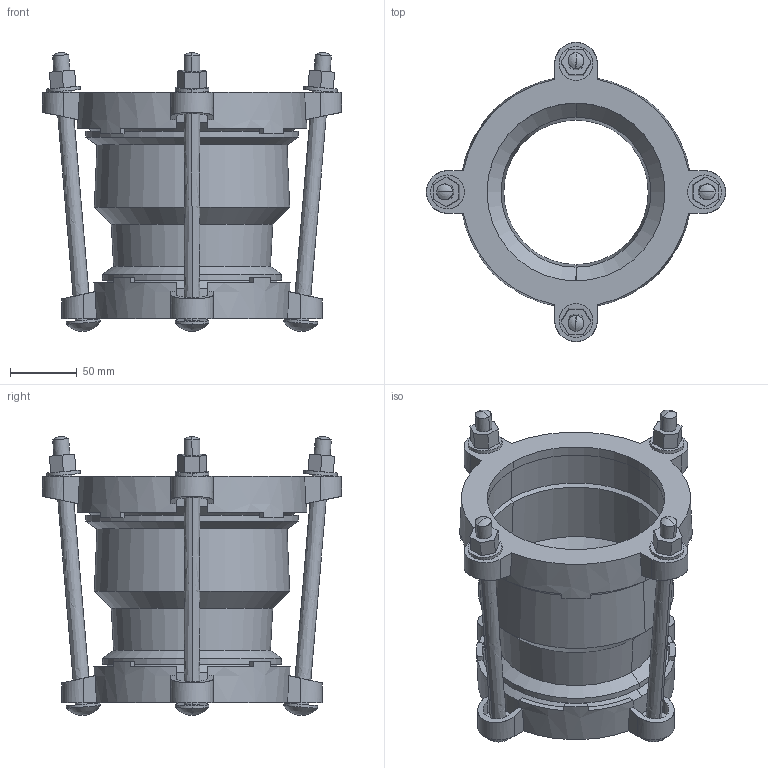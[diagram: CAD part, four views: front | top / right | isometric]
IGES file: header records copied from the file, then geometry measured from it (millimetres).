
Start section:  PTC IGES file: stepped_maxifit_107-107.igs
Global section: file name: stepped_maxifit_107-107.igs; native system: Creo Parametric by PTC Inc.; preprocessor: 2016130; author: MReader; organization: Unknown; date: 20181010.094849; units: millimetre
Bounding box: 224.5 x 224.5 x 209.28 mm (x, y, z)
Surface area: 264091.6 mm2 (no closed solid volume)
Topology: 0 solids, 0 shells, 282 faces, 1448 edges, 1432 vertices
Faces by surface type: revolution 160, bspline 122
